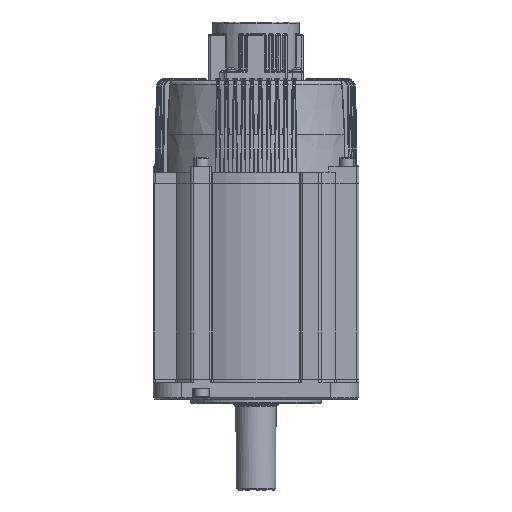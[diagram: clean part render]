
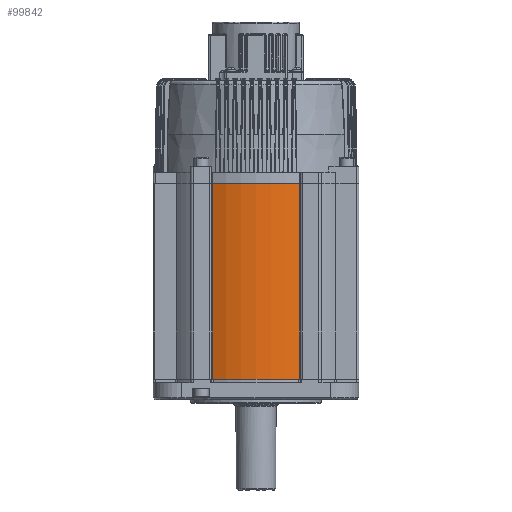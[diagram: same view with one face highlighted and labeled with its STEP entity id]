
A CAD part, front view. The second image highlights one B-rep face of the part: STEP entity #99842.
In plain terms, the highlighted cylindrical face has radius 90 mm (diameter 180 mm), a partial arc.
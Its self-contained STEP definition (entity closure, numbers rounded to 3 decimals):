
#839 = FACE_OUTER_BOUND ( 'NONE', #37449, .T. ) ;
#1076 = CARTESIAN_POINT ( 'NONE',  ( 0., 0., 171. ) ) ;
#1599 = CIRCLE ( 'NONE', #25549, 90. ) ;
#2109 = ORIENTED_EDGE ( 'NONE', *, *, #20872, .T. ) ;
#5791 = CARTESIAN_POINT ( 'NONE',  ( -38.287, -81.45, 0. ) ) ;
#11175 = DIRECTION ( 'NONE',  ( 0., 0., -1. ) ) ;
#11566 = ORIENTED_EDGE ( 'NONE', *, *, #133398, .F. ) ;
#12805 = VERTEX_POINT ( 'NONE', #76498 ) ;
#13061 = CARTESIAN_POINT ( 'NONE',  ( 38.287, -81.45, 171. ) ) ;
#16912 = CARTESIAN_POINT ( 'NONE',  ( -38.287, -81.45, 171. ) ) ;
#19694 = VERTEX_POINT ( 'NONE', #13061 ) ;
#20872 = EDGE_CURVE ( 'NONE', #40141, #36342, #54741, .T. ) ;
#24424 = ORIENTED_EDGE ( 'NONE', *, *, #65119, .F. ) ;
#25306 = LINE ( 'NONE', #118509, #56278 ) ;
#25549 = AXIS2_PLACEMENT_3D ( 'NONE', #111622, #101582, #39616 ) ;
#28649 = VECTOR ( 'NONE', #59033, 1000. ) ;
#36342 = VERTEX_POINT ( 'NONE', #5791 ) ;
#37449 = EDGE_LOOP ( 'NONE', ( #2109, #52911, #11566, #24424 ) ) ;
#39616 = DIRECTION ( 'NONE',  ( -1., 0., 0. ) ) ;
#40141 = VERTEX_POINT ( 'NONE', #78183 ) ;
#52911 = ORIENTED_EDGE ( 'NONE', *, *, #94809, .F. ) ;
#54741 = LINE ( 'NONE', #16912, #28649 ) ;
#56278 = VECTOR ( 'NONE', #129420, 1000. ) ;
#59033 = DIRECTION ( 'NONE',  ( 0., 0., -1. ) ) ;
#59870 = CYLINDRICAL_SURFACE ( 'NONE', #113853, 90. ) ;
#65119 = EDGE_CURVE ( 'NONE', #40141, #19694, #113392, .T. ) ;
#76498 = CARTESIAN_POINT ( 'NONE',  ( 38.287, -81.45, 0. ) ) ;
#78183 = CARTESIAN_POINT ( 'NONE',  ( -38.287, -81.45, 171. ) ) ;
#84272 = DIRECTION ( 'NONE',  ( -1., 0., 0. ) ) ;
#94809 = EDGE_CURVE ( 'NONE', #12805, #36342, #1599, .T. ) ;
#99842 = ADVANCED_FACE ( 'NONE', ( #839 ), #59870, .T. ) ;
#101582 = DIRECTION ( 'NONE',  ( 0., 0., -1. ) ) ;
#102280 = DIRECTION ( 'NONE',  ( 1., 0., 0. ) ) ;
#111622 = CARTESIAN_POINT ( 'NONE',  ( 0., 0., 0. ) ) ;
#113213 = CARTESIAN_POINT ( 'NONE',  ( 0., 0., 171. ) ) ;
#113392 = CIRCLE ( 'NONE', #115097, 90. ) ;
#113853 = AXIS2_PLACEMENT_3D ( 'NONE', #1076, #11175, #84272 ) ;
#115097 = AXIS2_PLACEMENT_3D ( 'NONE', #113213, #123243, #102280 ) ;
#118509 = CARTESIAN_POINT ( 'NONE',  ( 38.287, -81.45, 171. ) ) ;
#123243 = DIRECTION ( 'NONE',  ( 0., 0., 1. ) ) ;
#129420 = DIRECTION ( 'NONE',  ( 0., 0., -1. ) ) ;
#133398 = EDGE_CURVE ( 'NONE', #19694, #12805, #25306, .T. ) ;
